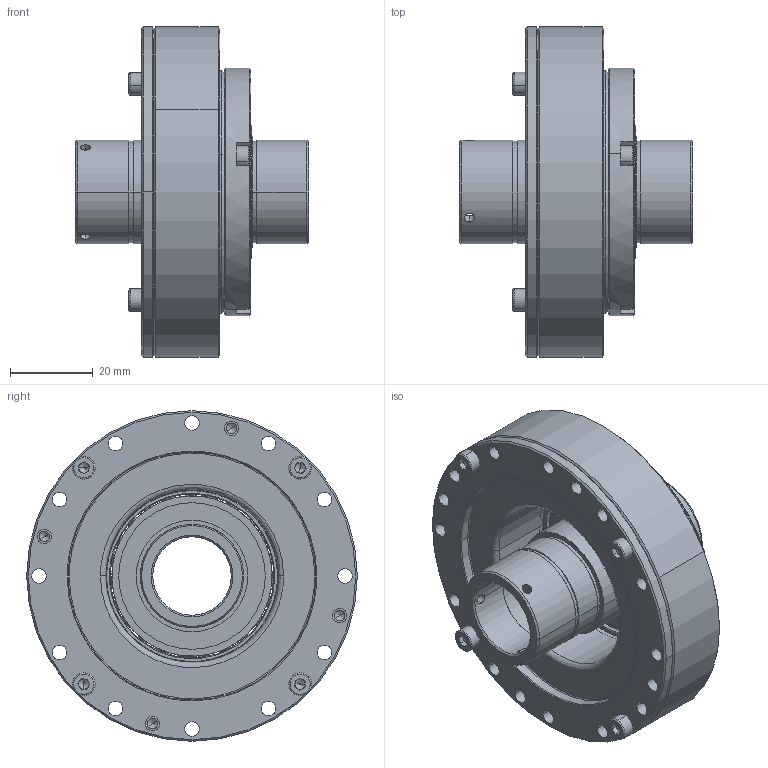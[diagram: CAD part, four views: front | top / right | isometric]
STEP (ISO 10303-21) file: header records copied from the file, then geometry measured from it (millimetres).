
FILE_DESCRIPTION (( 'STEP AP203' ), '1' );
FILE_NAME ('LHSG-17-XXX-C-III-ST.step', '2025-01-07T07:24:01', ( '' ), ( '' ), 'SwSTEP 2.0', 'SolidWorks 2023', '' );
FILE_SCHEMA (( 'CONFIG_CONTROL_DESIGN' ));
Length unit declared in the file: metre
Products named in the file (1): LHSG-17-XXX-C-III-ST
Bounding box: 56.5 x 80 x 80 mm (x, y, z)
Volume: 79634.3 mm3; surface area: 68854.4 mm2
Topology: 41 solids, 41 shells, 861 faces, 2227 edges, 1354 vertices
Faces by surface type: cylinder 381, plane 226, cone 138, bspline 116
Entity records: 29042 total; most frequent: CARTESIAN_POINT 8155, DIRECTION 4667, ORIENTED_EDGE 4126, EDGE_CURVE 2063, AXIS2_PLACEMENT_3D 1942, VERTEX_POINT 1354, CIRCLE 1196, EDGE_LOOP 1077
